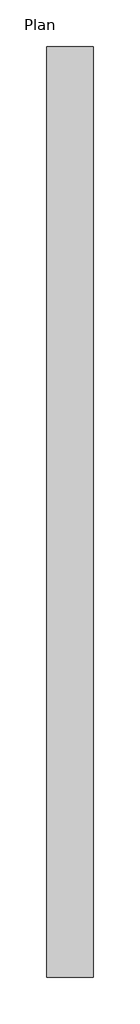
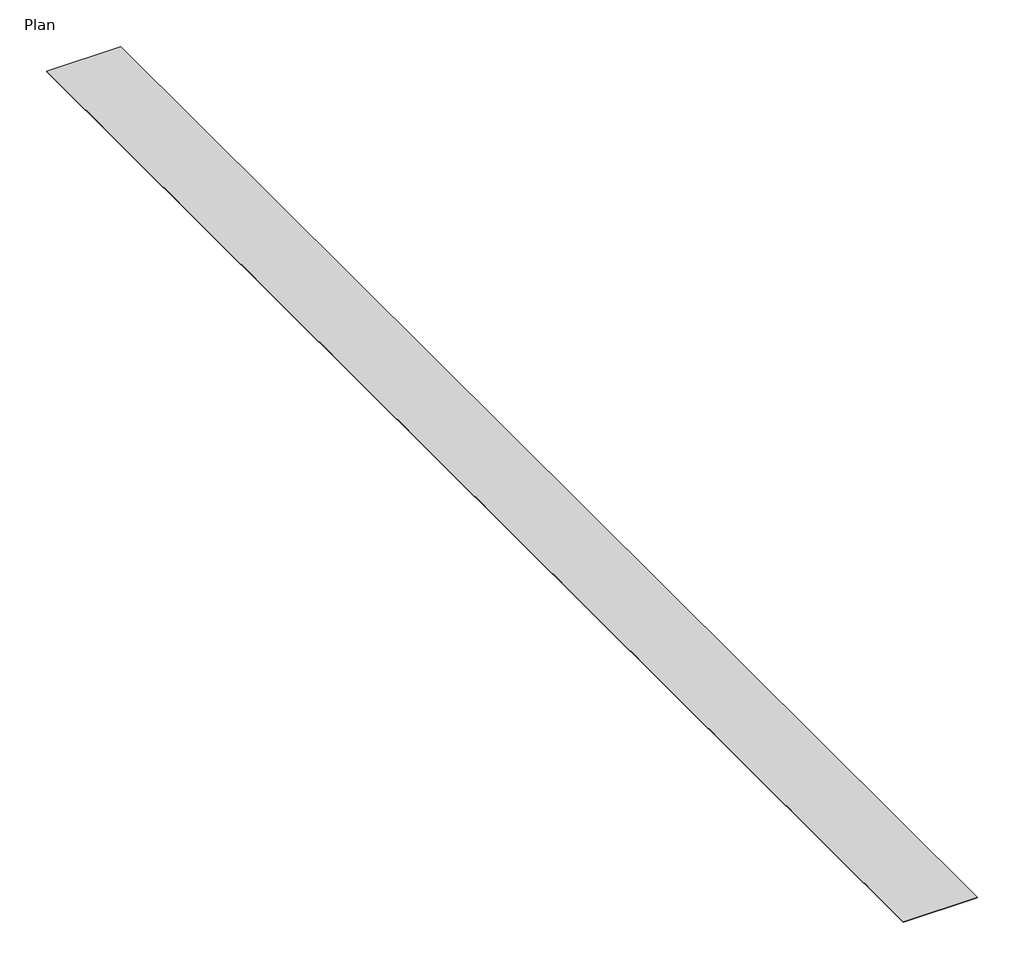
# One storey: 1 proxy.
"""IFC4 building model written with IfcOpenShell, lengths in millimetres."""

from ifc_helpers import new_model, si_unit, origin, place, context, project, spatial, transform, mapped, element, save
from components import generic_models_bffc2f37

model = new_model("IFC4")

# Units and contexts
model_context = context("Model", 3, world=origin())
ifc_project = project(units=[si_unit("LENGTHUNIT", "METRE", prefix="MILLI")], contexts=[model_context])

# Site, building, storey
site = spatial("IfcSite", under=ifc_project)
building = spatial("IfcBuilding", under=site)
storey = spatial("IfcBuildingStorey", under=building, Name="Plan", Elevation=0.0)

# Proxy
placement = place(None, origin())
generic_models_shape = generic_models_bffc2f37(model_context)
element("IfcBuildingElementProxy", 1, Name="AQUAPANEL Tape (10 cm) : AQUAPANEL Tape (10 cm)", ObjectType="AQUAPANEL Tape (10 cm) : AQUAPANEL Tape (10 cm)", at=placement, inside=storey, context=model_context, shape_type="MappedRepresentation", body=[
    mapped(generic_models_shape, transform((0.0, 0.0, 0.0), x_axis=(1.0, 0.0, 0.0), y_axis=(0.0, 1.0, 0.0), z_axis=(0.0, 0.0, 1.0))),
])

save(model, "model.ifc")
